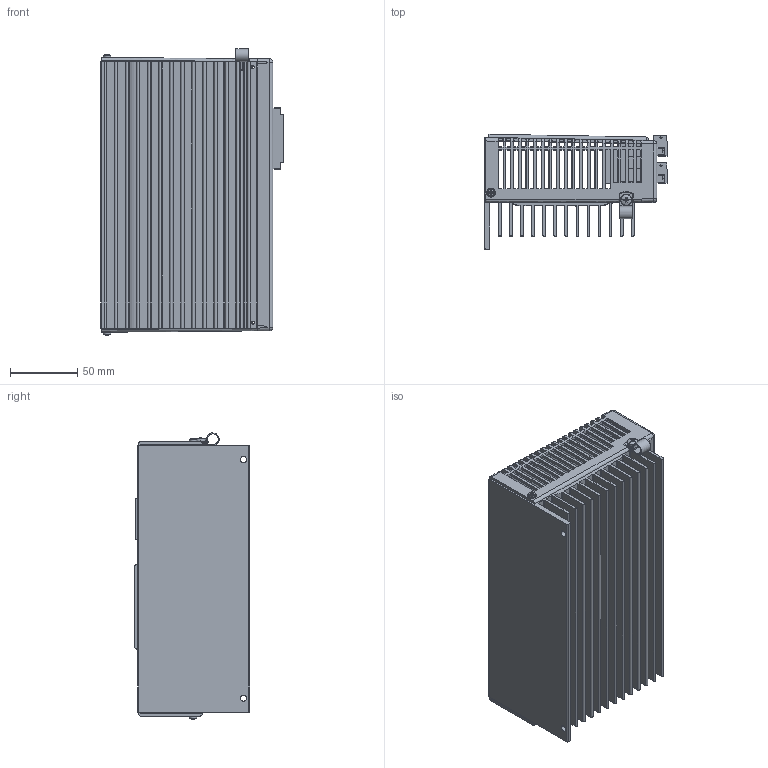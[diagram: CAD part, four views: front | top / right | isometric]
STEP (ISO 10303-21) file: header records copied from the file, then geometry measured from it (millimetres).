
FILE_DESCRIPTION((''),'2;1');
FILE_NAME('750','2007-05-01T',('JOHNB'),('Ultra Tool'),'PRO/ENGINEER BY PARAMETRIC TECHNOLOGY CORPORATION, 2005380','PRO/ENGINEER BY PARAMETRIC TECHNOLOGY CORPORATION, 2005380','');
FILE_SCHEMA(('CONFIG_CONTROL_DESIGN'));
Products named in the file (1): 750
Bounding box: 135.92 x 85.93 x 213.39 mm (x, y, z)
Volume: 473185.5 mm3; surface area: 325422.9 mm2
Topology: 11 solids, 13 shells, 1471 faces, 4263 edges, 2735 vertices
Faces by surface type: plane 916, cylinder 401, bspline 86, cone 32, sphere 19, extrusion 9, torus 8
Entity records: 63104 total; most frequent: CARTESIAN_POINT 15307, ORIENTED_EDGE 8382, DIRECTION 7241, EDGE_CURVE 4191, VECTOR 3011, LINE 3002, VERTEX_POINT 2792, AXIS2_PLACEMENT_3D 2115
